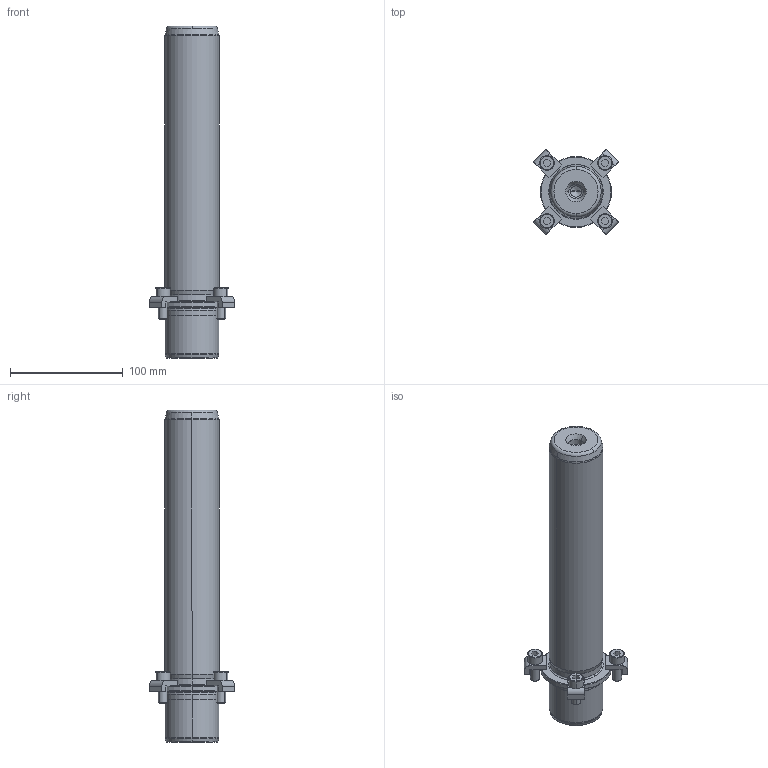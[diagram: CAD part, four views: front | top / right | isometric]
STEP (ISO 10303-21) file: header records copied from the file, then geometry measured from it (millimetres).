
FILE_DESCRIPTION((''),'2;1');
FILE_NAME('P21_048_250.stp','2008-12-23T13:39:26',(''),(''),'Mechanical Desktop 2009','Mechanical Desktop 2009',', , ');
FILE_SCHEMA(('CONFIG_CONTROL_DESIGN'));
Length unit declared in the file: millimetre
Products named in the file (2): Product; blmdl1
Assembly tree (1 placements, depth 2):
  Product
    blmdl1
Bounding box: 76.01 x 76.01 x 295 mm (x, y, z)
Volume: 542891.5 mm3; surface area: 61900.7 mm2
Topology: 9 solids, 9 shells, 195 faces, 477 edges, 309 vertices
Faces by surface type: plane 77, cylinder 52, cone 34, torus 16, bspline 16
Entity records: 6547 total; most frequent: CARTESIAN_POINT 1683, DIRECTION 1078, ORIENTED_EDGE 946, EDGE_CURVE 473, AXIS2_PLACEMENT_3D 424, VERTEX_POINT 309, CIRCLE 243, VECTOR 230
